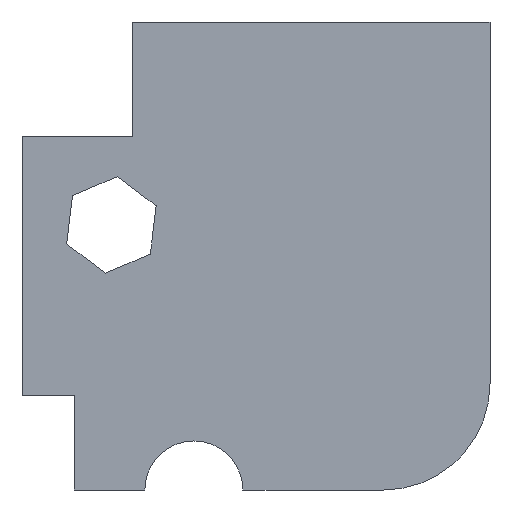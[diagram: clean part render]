
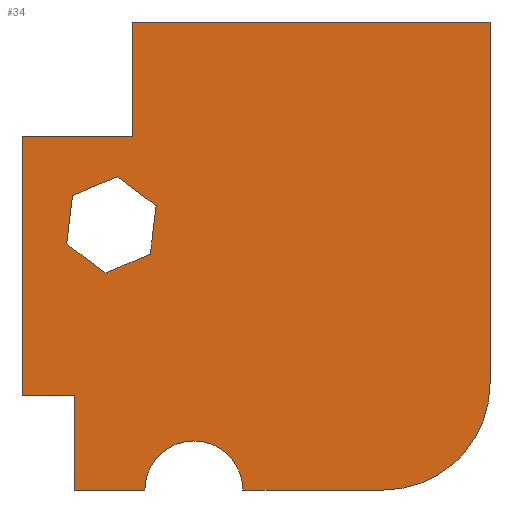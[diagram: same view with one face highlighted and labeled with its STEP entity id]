
A CAD part, left-side view. The second image highlights one B-rep face of the part: STEP entity #34.
In plain terms, the highlighted planar face has unit normal (-1, 0, 0).
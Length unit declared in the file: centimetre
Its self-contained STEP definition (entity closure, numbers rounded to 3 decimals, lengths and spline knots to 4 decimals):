
#1 = VERTEX_POINT ( 'NONE', #379 ) ;
#6 = AXIS2_PLACEMENT_3D ( 'NONE', #870, #517, #529 ) ;
#10 = ORIENTED_EDGE ( 'NONE', *, *, #577, .T. ) ;
#12 = PLANE ( 'NONE',  #837 ) ;
#29 = LINE ( 'NONE', #243, #485 ) ;
#33 = DIRECTION ( 'NONE',  ( 0., -0.12, 0.993 ) ) ;
#34 = ADVANCED_FACE ( 'NONE', ( #129, #639 ), #12, .F. ) ;
#35 = VECTOR ( 'NONE', #567, 100. ) ;
#54 = CARTESIAN_POINT ( 'NONE',  ( 0., 764.026, 1000. ) ) ;
#56 = VECTOR ( 'NONE', #351, 100. ) ;
#61 = DIRECTION ( 'NONE',  ( 0., -1., 0. ) ) ;
#63 = VERTEX_POINT ( 'NONE', #263 ) ;
#68 = VERTEX_POINT ( 'NONE', #768 ) ;
#72 = EDGE_CURVE ( 'NONE', #637, #534, #206, .T. ) ;
#73 = CARTESIAN_POINT ( 'NONE',  ( 0., 227.5681, 0. ) ) ;
#76 = CARTESIAN_POINT ( 'NONE',  ( 0., 1000., 201.1488 ) ) ;
#78 = CARTESIAN_POINT ( 'NONE',  ( 0., 1000., 1000. ) ) ;
#79 = VECTOR ( 'NONE', #894, 100. ) ;
#83 = LINE ( 'NONE', #78, #514 ) ;
#95 = VECTOR ( 'NONE', #341, 100. ) ;
#98 = EDGE_CURVE ( 'NONE', #396, #716, #274, .T. ) ;
#112 = LINE ( 'NONE', #381, #239 ) ;
#114 = EDGE_CURVE ( 'NONE', #859, #661, #903, .T. ) ;
#117 = CARTESIAN_POINT ( 'NONE',  ( 0., 227.5681, 227.5681 ) ) ;
#120 = CARTESIAN_POINT ( 'NONE',  ( 0., 764.026, 754.9292 ) ) ;
#124 = DIRECTION ( 'NONE',  ( -1., 0., 0. ) ) ;
#126 = CARTESIAN_POINT ( 'NONE',  ( 0., 0., 1000. ) ) ;
#129 = FACE_BOUND ( 'NONE', #675, .T. ) ;
#138 = CARTESIAN_POINT ( 'NONE',  ( 0., 1000., 0. ) ) ;
#145 = LINE ( 'NONE', #683, #739 ) ;
#154 = CARTESIAN_POINT ( 'NONE',  ( 0., 527.9798, 0. ) ) ;
#160 = VERTEX_POINT ( 'NONE', #76 ) ;
#164 = AXIS2_PLACEMENT_3D ( 'NONE', #117, #124, #610 ) ;
#165 = VERTEX_POINT ( 'NONE', #718 ) ;
#168 = DIRECTION ( 'NONE',  ( 0., -0.8, -0.6 ) ) ;
#172 = LINE ( 'NONE', #669, #846 ) ;
#185 = CARTESIAN_POINT ( 'NONE',  ( 0., 892.093, 628.9044 ) ) ;
#194 = DIRECTION ( 'NONE',  ( 0., 0.92, -0.393 ) ) ;
#206 = LINE ( 'NONE', #138, #698 ) ;
#207 = LINE ( 'NONE', #356, #35 ) ;
#208 = CARTESIAN_POINT ( 'NONE',  ( 0., 888.3121, 0. ) ) ;
#214 = ORIENTED_EDGE ( 'NONE', *, *, #513, .F. ) ;
#236 = ORIENTED_EDGE ( 'NONE', *, *, #714, .F. ) ;
#239 = VECTOR ( 'NONE', #804, 100. ) ;
#243 = CARTESIAN_POINT ( 'NONE',  ( 0., 725.8174, 504.1341 ) ) ;
#244 = EDGE_LOOP ( 'NONE', ( #749, #292, #10, #847, #800, #540, #367, #249, #451, #450, #214 ) ) ;
#249 = ORIENTED_EDGE ( 'NONE', *, *, #72, .T. ) ;
#257 = EDGE_CURVE ( 'NONE', #455, #637, #400, .T. ) ;
#263 = CARTESIAN_POINT ( 'NONE',  ( 0., 0., 1000. ) ) ;
#269 = CARTESIAN_POINT ( 'NONE',  ( 0., 1000., 1000. ) ) ;
#270 = LINE ( 'NONE', #350, #715 ) ;
#274 = LINE ( 'NONE', #829, #549 ) ;
#275 = DIRECTION ( 'NONE',  ( 0., -1., 0. ) ) ;
#284 = EDGE_CURVE ( 'NONE', #1, #165, #29, .T. ) ;
#288 = VERTEX_POINT ( 'NONE', #461 ) ;
#292 = ORIENTED_EDGE ( 'NONE', *, *, #486, .T. ) ;
#315 = EDGE_CURVE ( 'NONE', #63, #376, #405, .T. ) ;
#341 = DIRECTION ( 'NONE',  ( 0., 0., -1. ) ) ;
#350 = CARTESIAN_POINT ( 'NONE',  ( 0., 764.026, 754.9292 ) ) ;
#351 = DIRECTION ( 'NONE',  ( 0., -1., 0. ) ) ;
#356 = CARTESIAN_POINT ( 'NONE',  ( 0., 821.4134, 463.3273 ) ) ;
#367 = ORIENTED_EDGE ( 'NONE', *, *, #257, .T. ) ;
#372 = EDGE_CURVE ( 'NONE', #716, #288, #616, .T. ) ;
#376 = VERTEX_POINT ( 'NONE', #818 ) ;
#379 = CARTESIAN_POINT ( 'NONE',  ( 0., 725.8174, 504.1341 ) ) ;
#381 = CARTESIAN_POINT ( 'NONE',  ( 0., 764.026, 754.9292 ) ) ;
#392 = EDGE_CURVE ( 'NONE', #859, #160, #755, .T. ) ;
#393 = VERTEX_POINT ( 'NONE', #120 ) ;
#396 = VERTEX_POINT ( 'NONE', #892 ) ;
#400 = CIRCLE ( 'NONE', #6, 104.7547 ) ;
#402 = CARTESIAN_POINT ( 'NONE',  ( 0., 888.3121, 201.1488 ) ) ;
#405 = LINE ( 'NONE', #126, #95 ) ;
#419 = CARTESIAN_POINT ( 'NONE',  ( 0., 888.3121, 201.1488 ) ) ;
#420 = LINE ( 'NONE', #769, #759 ) ;
#428 = LINE ( 'NONE', #708, #56 ) ;
#434 = DIRECTION ( 'NONE',  ( 0., 0., -1. ) ) ;
#441 = EDGE_CURVE ( 'NONE', #534, #376, #562, .T. ) ;
#450 = ORIENTED_EDGE ( 'NONE', *, *, #315, .F. ) ;
#451 = ORIENTED_EDGE ( 'NONE', *, *, #441, .T. ) ;
#455 = VERTEX_POINT ( 'NONE', #890 ) ;
#459 = ORIENTED_EDGE ( 'NONE', *, *, #284, .F. ) ;
#461 = CARTESIAN_POINT ( 'NONE',  ( 0., 904.5512, 525.7124 ) ) ;
#469 = CARTESIAN_POINT ( 'NONE',  ( 0., 892.093, 628.9044 ) ) ;
#471 = CARTESIAN_POINT ( 'NONE',  ( 0., 888.3121, 201.1488 ) ) ;
#485 = VECTOR ( 'NONE', #33, 100. ) ;
#486 = EDGE_CURVE ( 'NONE', #393, #700, #270, .T. ) ;
#507 = ORIENTED_EDGE ( 'NONE', *, *, #372, .F. ) ;
#513 = EDGE_CURVE ( 'NONE', #855, #63, #420, .T. ) ;
#514 = VECTOR ( 'NONE', #434, 100. ) ;
#517 = DIRECTION ( 'NONE',  ( 1., 0., 0. ) ) ;
#526 = EDGE_CURVE ( 'NONE', #68, #1, #207, .T. ) ;
#529 = DIRECTION ( 'NONE',  ( 0., 0., -1. ) ) ;
#534 = VERTEX_POINT ( 'NONE', #73 ) ;
#540 = ORIENTED_EDGE ( 'NONE', *, *, #658, .T. ) ;
#549 = VECTOR ( 'NONE', #194, 100. ) ;
#558 = DIRECTION ( 'NONE',  ( 0., 0., -1. ) ) ;
#562 = CIRCLE ( 'NONE', #164, 227.5681 ) ;
#567 = DIRECTION ( 'NONE',  ( 0., -0.92, 0.393 ) ) ;
#577 = EDGE_CURVE ( 'NONE', #700, #160, #83, .T. ) ;
#605 = CARTESIAN_POINT ( 'NONE',  ( 0., 1000., 754.9292 ) ) ;
#610 = DIRECTION ( 'NONE',  ( 0., 0., -1. ) ) ;
#616 = LINE ( 'NONE', #185, #687 ) ;
#625 = ORIENTED_EDGE ( 'NONE', *, *, #526, .F. ) ;
#635 = DIRECTION ( 'NONE',  ( 0., 1., 0. ) ) ;
#637 = VERTEX_POINT ( 'NONE', #154 ) ;
#639 = FACE_OUTER_BOUND ( 'NONE', #244, .T. ) ;
#658 = EDGE_CURVE ( 'NONE', #661, #455, #428, .T. ) ;
#661 = VERTEX_POINT ( 'NONE', #208 ) ;
#663 = EDGE_CURVE ( 'NONE', #165, #396, #145, .T. ) ;
#666 = DIRECTION ( 'NONE',  ( 0., 0.8, 0.6 ) ) ;
#669 = CARTESIAN_POINT ( 'NONE',  ( 0., 904.5512, 525.7124 ) ) ;
#675 = EDGE_LOOP ( 'NONE', ( #507, #803, #783, #459, #625, #236 ) ) ;
#683 = CARTESIAN_POINT ( 'NONE',  ( 0., 713.3592, 607.3261 ) ) ;
#687 = VECTOR ( 'NONE', #758, 100. ) ;
#698 = VECTOR ( 'NONE', #61, 100. ) ;
#699 = EDGE_CURVE ( 'NONE', #855, #393, #112, .T. ) ;
#700 = VERTEX_POINT ( 'NONE', #605 ) ;
#708 = CARTESIAN_POINT ( 'NONE',  ( 0., 1000., 0. ) ) ;
#714 = EDGE_CURVE ( 'NONE', #288, #68, #172, .T. ) ;
#715 = VECTOR ( 'NONE', #635, 100. ) ;
#716 = VERTEX_POINT ( 'NONE', #469 ) ;
#718 = CARTESIAN_POINT ( 'NONE',  ( 0., 713.3592, 607.3261 ) ) ;
#739 = VECTOR ( 'NONE', #666, 100. ) ;
#744 = VECTOR ( 'NONE', #558, 100. ) ;
#749 = ORIENTED_EDGE ( 'NONE', *, *, #699, .T. ) ;
#755 = LINE ( 'NONE', #471, #79 ) ;
#758 = DIRECTION ( 'NONE',  ( 0., 0.12, -0.993 ) ) ;
#759 = VECTOR ( 'NONE', #275, 100. ) ;
#768 = CARTESIAN_POINT ( 'NONE',  ( 0., 821.4134, 463.3273 ) ) ;
#769 = CARTESIAN_POINT ( 'NONE',  ( 0., 1000., 1000. ) ) ;
#773 = DIRECTION ( 'NONE',  ( 1., 0., 0. ) ) ;
#783 = ORIENTED_EDGE ( 'NONE', *, *, #663, .F. ) ;
#800 = ORIENTED_EDGE ( 'NONE', *, *, #114, .T. ) ;
#803 = ORIENTED_EDGE ( 'NONE', *, *, #98, .F. ) ;
#804 = DIRECTION ( 'NONE',  ( 0., 0., -1. ) ) ;
#818 = CARTESIAN_POINT ( 'NONE',  ( 0., 0., 227.5681 ) ) ;
#829 = CARTESIAN_POINT ( 'NONE',  ( 0., 796.497, 669.7113 ) ) ;
#837 = AXIS2_PLACEMENT_3D ( 'NONE', #269, #773, #898 ) ;
#846 = VECTOR ( 'NONE', #168, 100. ) ;
#847 = ORIENTED_EDGE ( 'NONE', *, *, #392, .F. ) ;
#855 = VERTEX_POINT ( 'NONE', #54 ) ;
#859 = VERTEX_POINT ( 'NONE', #402 ) ;
#870 = CARTESIAN_POINT ( 'NONE',  ( 0., 632.7345, 0. ) ) ;
#890 = CARTESIAN_POINT ( 'NONE',  ( 0., 737.4892, 0. ) ) ;
#892 = CARTESIAN_POINT ( 'NONE',  ( 0., 796.497, 669.7113 ) ) ;
#894 = DIRECTION ( 'NONE',  ( 0., 1., 0. ) ) ;
#898 = DIRECTION ( 'NONE',  ( 0., 0., -1. ) ) ;
#903 = LINE ( 'NONE', #419, #744 ) ;
